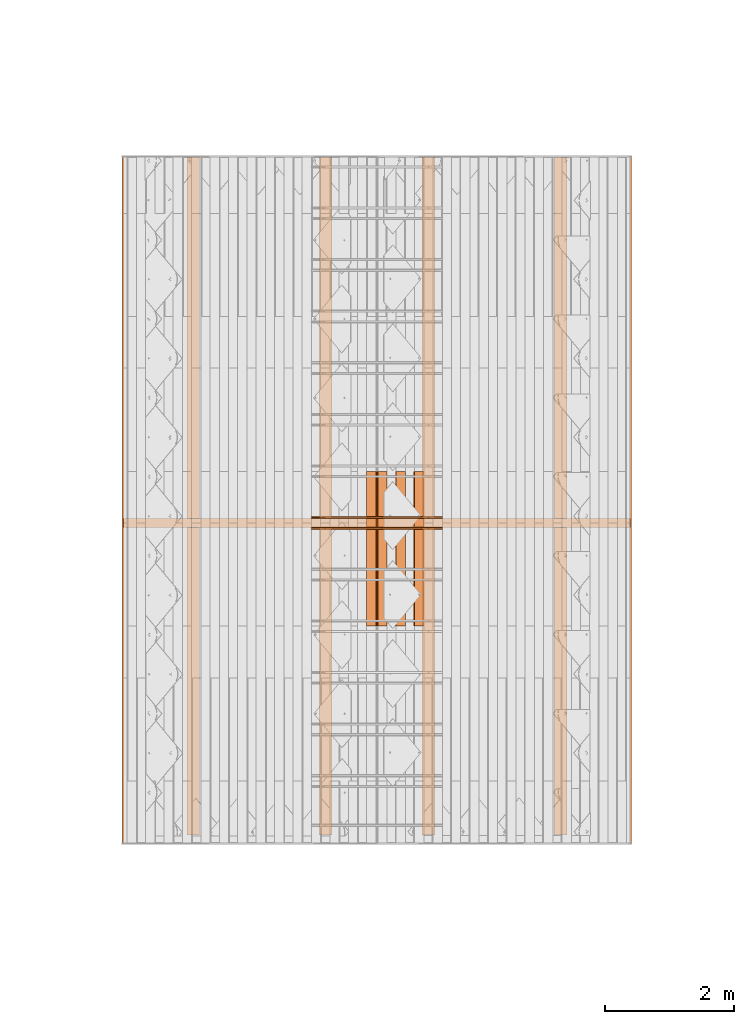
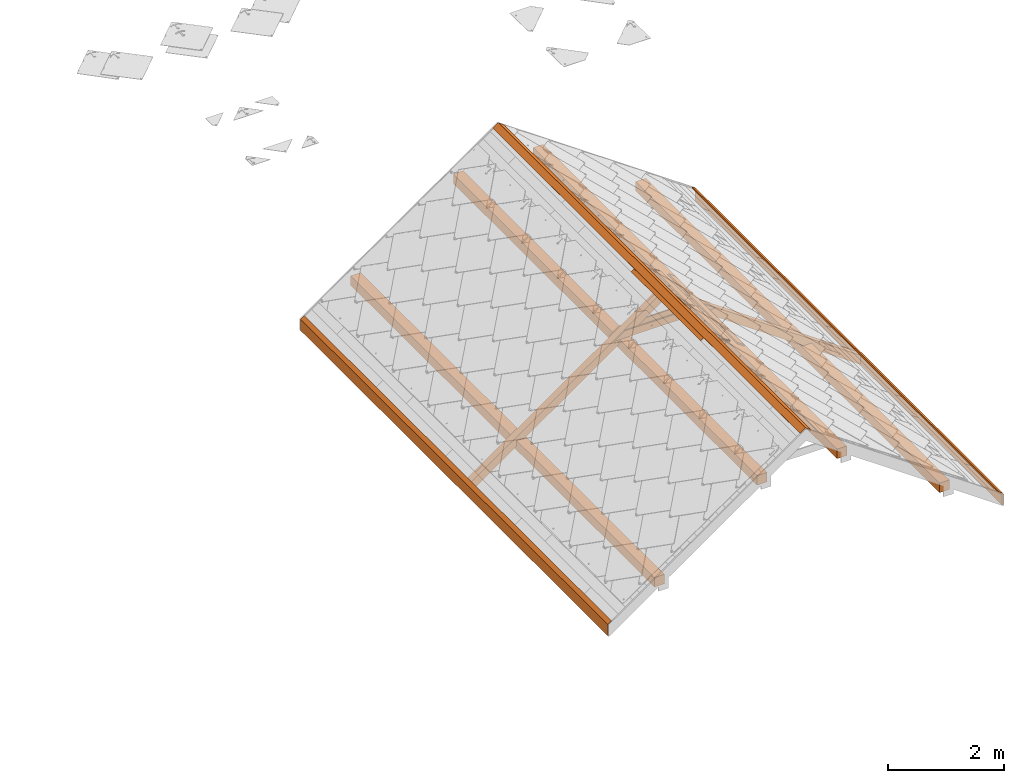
# One storey, part 41 of 151: 9 proxies, 1 element without a shape of its own.
"""IFC2X3 building model written with IfcOpenShell, lengths in millimetres."""

from ifc_helpers import new_model, entity, si_unit, converted_unit, derived_unit, direction, frame, frame_2d, origin, origin_2d_with_axis, place, context, subcontext, project, spatial, polyline, rectangle, outline, extrude, source, transform, mapped, material, type_object, type_shapes, element, aggregate, save


model = new_model("IFC2X3")

# Units and contexts
model_context = context("Model", 3, precision=0.01, world=origin(), true_north=direction((6.12303176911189e-17, 1.0)))
body_context = subcontext(model_context, "Body", "Model", "MODEL_VIEW")
ifc_project = project(units=[si_unit("LENGTHUNIT", "METRE", prefix="MILLI"), si_unit("AREAUNIT", "SQUARE_METRE"), si_unit("VOLUMEUNIT", "CUBIC_METRE"), converted_unit("PLANEANGLEUNIT", "DEGREE", entity("IfcRatioMeasure", 0.0174532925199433), si_unit("PLANEANGLEUNIT", "RADIAN"), dimensions=[0, 0, 0, 0, 0, 0, 0]), si_unit("MASSUNIT", "GRAM", prefix="KILO"), derived_unit("MASSDENSITYUNIT", [(si_unit("MASSUNIT", "GRAM", prefix="KILO"), 1), (si_unit("LENGTHUNIT", "METRE"), -3)]), si_unit("TIMEUNIT", "SECOND"), si_unit("FREQUENCYUNIT", "HERTZ"), si_unit("THERMODYNAMICTEMPERATUREUNIT", "DEGREE_CELSIUS"), derived_unit("THERMALTRANSMITTANCEUNIT", [(si_unit("MASSUNIT", "GRAM", prefix="KILO"), 1), (si_unit("THERMODYNAMICTEMPERATUREUNIT", "KELVIN"), -1), (si_unit("TIMEUNIT", "SECOND"), -3)]), derived_unit("VOLUMETRICFLOWRATEUNIT", [(si_unit("LENGTHUNIT", "METRE"), 3), (si_unit("TIMEUNIT", "SECOND"), -1)]), si_unit("ELECTRICCURRENTUNIT", "AMPERE"), si_unit("ELECTRICVOLTAGEUNIT", "VOLT"), si_unit("POWERUNIT", "WATT"), si_unit("FORCEUNIT", "NEWTON", prefix="KILO"), si_unit("ILLUMINANCEUNIT", "LUX"), si_unit("LUMINOUSFLUXUNIT", "LUMEN"), si_unit("LUMINOUSINTENSITYUNIT", "CANDELA"), derived_unit("USERDEFINED", [(si_unit("MASSUNIT", "GRAM", prefix="KILO"), -1), (si_unit("LENGTHUNIT", "METRE"), -2), (si_unit("TIMEUNIT", "SECOND"), 3), (si_unit("LUMINOUSFLUXUNIT", "LUMEN"), 1)]), derived_unit("LINEARVELOCITYUNIT", [(si_unit("LENGTHUNIT", "METRE"), 1), (si_unit("TIMEUNIT", "SECOND"), -1)]), si_unit("PRESSUREUNIT", "PASCAL"), derived_unit("USERDEFINED", [(si_unit("LENGTHUNIT", "METRE"), -2), (si_unit("MASSUNIT", "GRAM", prefix="KILO"), 1), (si_unit("TIMEUNIT", "SECOND"), -2)])], contexts=[model_context])

# Site, building, storey
site_placement = place(None, origin())
site = spatial("IfcSite", under=ifc_project, at=site_placement, Name="Default", CompositionType="ELEMENT")
building_placement = place(site_placement, origin())
building = spatial("IfcBuilding", under=site, at=building_placement, CompositionType="ELEMENT")
storey_placement = place(building_placement, origin())
storey = spatial("IfcBuildingStorey", under=building, at=storey_placement, Name="Level 1", CompositionType="ELEMENT", Elevation=0.0)

# Assembly, proxies
assembly_placement = place(storey_placement, origin())
assembly = element("IfcElementAssembly", 1, at=assembly_placement, inside=storey, Name="Structural Framing Assembly:Roof Construction Assembly", ObjectType="Structural Framing Assembly:Roof Construction Assembly", AssemblyPlace="NOTDEFINED", PredefinedType="USERDEFINED")
ifc_material_1 = material(Name="Wood - Generic - Wood For Showcase")
building_element_proxy_type_1 = type_object("IfcBuildingElementProxyType", Name="Structural Framing 1", PredefinedType="NOTDEFINED", material=ifc_material_1)
shared_shape_1 = source(origin(), body_context, "Body", "SweptSolid", [
    extrude(outline(polyline([(-929.245683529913, -1327.10037070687), (3863.25950492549, -1327.10037070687), (3975.29271103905, -1167.10037070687), (2778.93361405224, -1167.10037070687), (2713.54351952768, -1260.48710386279), (2580.17344271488, -1167.10037070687), (278.933614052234, -1167.10037070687), (213.543519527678, -1260.48710386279), (80.1734427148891, -1167.10037070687), (-817.212477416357, -1167.10037070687), (-1124.13653843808, -323.833443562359), (-1257.50661525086, -230.446710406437), (-1192.11652072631, -137.059977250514), (-1979.18689675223, 2025.39810840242), (-2112.55697356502, 2118.78484155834), (-2047.16687904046, 2212.17157471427), (-2456.34578886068, 3336.3813899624), (-2568.37899497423, 3176.3813899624), (-929.245683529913, -1327.10037070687)])), frame((1206.77890726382, 3785.55080214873, 1179.90959070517), z_axis=(0.0, 1.0, 0.0), x_axis=(0.819152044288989, 0.0, -0.573576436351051)), (0.0, 0.0, 1.0), 140.0),
])
type_shapes(building_element_proxy_type_1, [shared_shape_1])
proxy_1_placement = place(assembly_placement, frame((57.4878711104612, -5600.0, 0.0)))
proxy_1 = element("IfcBuildingElementProxy", 2, at=proxy_1_placement, type_object=building_element_proxy_type_1, material=ifc_material_1, Name="Structural Framing 8:Structural Framing 1", ObjectType="Structural Framing 8:Structural Framing 1", context=body_context, shape_type="MappedRepresentation", body=[
    mapped(shared_shape_1, transform((0.0, 0.0, 0.0), scale=1.0)),
])
building_element_proxy_type_2 = type_object("IfcBuildingElementProxyType", Name="Structural Framing 15", PredefinedType="NOTDEFINED", material=ifc_material_1)
shared_shape_2 = source(origin(), body_context, "Body", "SweptSolid", [
    extrude(rectangle(XDim=24.9999999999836, YDim=174.344679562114, at=frame_2d((2.97539770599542e-13, -4.2632564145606e-14), x_axis=(1.0, 0.0))), frame((1285.35601305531, 1525.55080214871, 2760.23940055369), z_axis=(0.0, 1.0, 0.0), x_axis=(0.573576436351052, 0.0, 0.819152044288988)), (0.0, 0.0, 1.0), 2400.0),
])
type_shapes(building_element_proxy_type_2, [shared_shape_2])
proxy_2_placement = place(assembly_placement, frame((57.4878711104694, -4870.0, 0.0)))
proxy_2 = element("IfcBuildingElementProxy", 3, at=proxy_2_placement, type_object=building_element_proxy_type_2, material=ifc_material_1, Name="Structural Framing 157:Structural Framing 15", ObjectType="Structural Framing 157:Structural Framing 15", context=body_context, shape_type="MappedRepresentation", body=[
    mapped(shared_shape_2, transform((0.0, 0.0, 0.0), scale=1.0)),
])
building_element_proxy_type_3 = type_object("IfcBuildingElementProxyType", Name="Structural Framing 15", PredefinedType="NOTDEFINED", material=ifc_material_1)
shared_shape_3 = source(origin(), body_context, "Body", "SweptSolid", [
    extrude(rectangle(XDim=24.9999999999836, YDim=174.344679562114, at=frame_2d((2.97539770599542e-13, -4.2632564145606e-14), x_axis=(1.0, 0.0))), frame((1285.35601305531, 1525.55080214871, 2760.23940055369), z_axis=(0.0, 1.0, 0.0), x_axis=(0.573576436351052, 0.0, 0.819152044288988)), (0.0, 0.0, 1.0), 2400.0),
])
type_shapes(building_element_proxy_type_3, [shared_shape_3])
proxy_3_placement = place(assembly_placement, frame((343.11747245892, -4870.0, -200.0)))
proxy_3 = element("IfcBuildingElementProxy", 4, at=proxy_3_placement, type_object=building_element_proxy_type_3, material=ifc_material_1, Name="Structural Framing 167:Structural Framing 15", ObjectType="Structural Framing 167:Structural Framing 15", context=body_context, shape_type="MappedRepresentation", body=[
    mapped(shared_shape_3, transform((0.0, 0.0, 0.0), scale=1.0)),
])
building_element_proxy_type_4 = type_object("IfcBuildingElementProxyType", Name="Structural Framing 15", PredefinedType="NOTDEFINED", material=ifc_material_1)
shared_shape_4 = source(origin(), body_context, "Body", "SweptSolid", [
    extrude(rectangle(XDim=24.9999999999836, YDim=174.344679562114, at=frame_2d((2.97539770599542e-13, -4.2632564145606e-14), x_axis=(1.0, 0.0))), frame((1285.35601305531, 1525.55080214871, 2760.23940055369), z_axis=(0.0, 1.0, 0.0), x_axis=(0.573576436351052, 0.0, 0.819152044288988)), (0.0, 0.0, 1.0), 2400.0),
])
type_shapes(building_element_proxy_type_4, [shared_shape_4])
proxy_4_placement = place(assembly_placement, frame((628.747073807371, -4870.0, -400.0)))
proxy_4 = element("IfcBuildingElementProxy", 5, at=proxy_4_placement, type_object=building_element_proxy_type_4, material=ifc_material_1, Name="Structural Framing 177:Structural Framing 15", ObjectType="Structural Framing 177:Structural Framing 15", context=body_context, shape_type="MappedRepresentation", body=[
    mapped(shared_shape_4, transform((0.0, 0.0, 0.0), scale=1.0)),
])
building_element_proxy_type_5 = type_object("IfcBuildingElementProxyType", Name="Structural Framing 15", PredefinedType="NOTDEFINED", material=ifc_material_1)
shared_shape_5 = source(origin(), body_context, "Body", "SweptSolid", [
    extrude(rectangle(XDim=24.9999999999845, YDim=174.344679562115, at=frame_2d((-1.77635683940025e-13, -4.54747350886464e-13), x_axis=(0.0, 1.0))), frame((1128.20180147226, 1525.55080214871, 2760.23940055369), z_axis=(0.0, 1.0, 0.0), x_axis=(-0.819152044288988, 0.0, -0.573576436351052)), (0.0, 0.0, 1.0), 2400.0),
])
type_shapes(building_element_proxy_type_5, [shared_shape_5])
proxy_5_placement = place(assembly_placement, frame((57.4878711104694, -4870.0, 0.0)))
proxy_5 = element("IfcBuildingElementProxy", 6, at=proxy_5_placement, type_object=building_element_proxy_type_5, material=ifc_material_1, Name="Structural Framing 17:Structural Framing 15", ObjectType="Structural Framing 17:Structural Framing 15", context=body_context, shape_type="MappedRepresentation", body=[
    mapped(shared_shape_5, transform((0.0, 0.0, 0.0), scale=1.0)),
])
building_element_proxy_type_6 = type_object("IfcBuildingElementProxyType", Name="Structural Framing 295", PredefinedType="NOTDEFINED", material=ifc_material_1)
shared_shape_6 = source(origin(), body_context, "Body", "SweptSolid", [
    extrude(rectangle(XDim=10507.4999999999, YDim=200.0, at=frame_2d((0.0, -1.35003119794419e-13), x_axis=(1.0, 0.0))), frame((-1639.01151512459, -1328.19919785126, 456.015556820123), z_axis=(0.0, 0.0, 1.0), x_axis=(0.0, -1.0, 0.0)), (0.0, 0.0, 1.0), 200.0),
    extrude(rectangle(XDim=10507.4999999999, YDim=200.0, at=frame_2d((0.0, -5.47117906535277e-13), x_axis=(1.0, 0.0))), frame((4052.56932965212, -1328.19919785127, 456.015556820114), z_axis=(0.0, 0.0, 1.0), x_axis=(0.0, -1.0, 0.0)), (0.0, 0.0, 1.0), 200.0),
    extrude(rectangle(XDim=10507.4999999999, YDim=200.0, at=origin_2d_with_axis()), frame((408.868595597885, -1328.19919785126, 1889.95664769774), z_axis=(0.0, 0.0, 1.0), x_axis=(0.0, -1.0, 0.0)), (0.0, 0.0, 1.0), 200.000000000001),
    extrude(rectangle(XDim=10507.4999999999, YDim=200.0, at=frame_2d((0.0, 1.35003119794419e-13), x_axis=(1.0, 0.0))), frame((2004.68921892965, -1328.19919785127, 1889.95664769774), z_axis=(0.0, 0.0, 1.0), x_axis=(0.0, -1.0, 0.0)), (0.0, 0.0, 1.0), 200.000000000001),
])
type_shapes(building_element_proxy_type_6, [shared_shape_6])
proxy_6_placement = place(assembly_placement, frame((57.4878711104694, 0.0, 0.0)))
proxy_6 = element("IfcBuildingElementProxy", 7, at=proxy_6_placement, type_object=building_element_proxy_type_6, material=ifc_material_1, Name="Structural Framing 295:Structural Framing 295", ObjectType="Structural Framing 295:Structural Framing 295", context=body_context, shape_type="MappedRepresentation", body=[
    mapped(shared_shape_6, transform((0.0, 0.0, 0.0), scale=1.0)),
])
building_element_proxy_type_7 = type_object("IfcBuildingElementProxyType", Name="Structural Framing 296", PredefinedType="NOTDEFINED", material=ifc_material_1)
shared_shape_7 = source(origin(), body_context, "Body", "SweptSolid", [
    extrude(outline(polyline([(-1014.04699829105, -75.0), (1014.04699829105, -75.0), (799.824797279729, 75.0), (-799.824797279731, 75.0), (-1014.04699829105, -75.0)])), frame((1206.77890726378, 3760.55080214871, 2164.95664769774), z_axis=(0.0, 1.0, 0.0), x_axis=(-1.0, 0.0, 0.0)), (0.0, 0.0, 1.0), 24.9999999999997),
])
type_shapes(building_element_proxy_type_7, [shared_shape_7])
proxy_7_placement = place(assembly_placement, frame((57.4878711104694, -5600.0, 0.0)))
proxy_7 = element("IfcBuildingElementProxy", 8, at=proxy_7_placement, type_object=building_element_proxy_type_7, material=ifc_material_1, Name="Structural Framing 309:Structural Framing 296", ObjectType="Structural Framing 309:Structural Framing 296", context=body_context, shape_type="MappedRepresentation", body=[
    mapped(shared_shape_7, transform((0.0, 0.0, 0.0), scale=1.0)),
])
building_element_proxy_type_8 = type_object("IfcBuildingElementProxyType", Name="Structural Framing 296", PredefinedType="NOTDEFINED", material=ifc_material_1)
shared_shape_8 = source(origin(), body_context, "Body", "SweptSolid", [
    extrude(outline(polyline([(-1014.04699829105, -75.0), (1014.04699829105, -75.0), (799.824797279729, 75.0), (-799.824797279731, 75.0), (-1014.04699829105, -75.0)])), frame((1206.77890726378, 2325.55080214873, 2164.95664769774), z_axis=(0.0, 1.0, 0.0), x_axis=(-1.0, 0.0, 0.0)), (0.0, 0.0, 1.0), 25.0),
])
type_shapes(building_element_proxy_type_8, [shared_shape_8])
proxy_8_placement = place(assembly_placement, frame((57.4878711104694, -4000.0, 0.0)))
proxy_8 = element("IfcBuildingElementProxy", 9, at=proxy_8_placement, type_object=building_element_proxy_type_8, material=ifc_material_1, Name="Structural Framing 310:Structural Framing 296", ObjectType="Structural Framing 310:Structural Framing 296", context=body_context, shape_type="MappedRepresentation", body=[
    mapped(shared_shape_8, transform((0.0, 0.0, 0.0), scale=1.0)),
])
ifc_material_2 = material(Name="Steel - Generic - Black Steel")
building_element_proxy_type_9 = type_object("IfcBuildingElementProxyType", Name="Structural Framing 321", PredefinedType="NOTDEFINED", material=ifc_material_2)
shared_shape_9 = source(origin(), body_context, "Body", "SweptSolid", [
    extrude(outline(polyline([(-54.8959999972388, 10.4195865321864), (170.947298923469, 10.4195865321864), (170.947298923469, 35.4195865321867), (-67.905897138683, 35.4195865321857), (-119.904373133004, -38.8419333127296), (-99.1883275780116, -52.8364128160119), (-54.8959999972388, 10.4195865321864)])), frame((-2651.10405748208, -6702.90480582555, 26.7553175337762), z_axis=(0.0, 1.0, 0.0), x_axis=(0.0, 0.0, -1.0)), (0.0, 0.0, 1.0), 10628.4556079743),
    extrude(outline(polyline([(22.9518264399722, 50.9445999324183), (100.173143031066, 50.9445999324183), (100.591772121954, 75.9410946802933), (9.93519577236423, 75.9410946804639), (-127.065369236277, -119.715989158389), (-106.586568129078, -134.055400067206), (22.9518264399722, 50.9445999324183)])), frame((5179.63761423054, -6702.90480582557, 26.7553175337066), z_axis=(0.0, 1.0, 0.0), x_axis=(-0.819152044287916, 0.0, 0.573576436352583)), (0.0, 0.0, 1.0), 10628.4556079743),
    extrude(outline(polyline([(25.3285986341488, -99.0490595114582), (50.3285986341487, -99.0490595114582), (52.582318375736, 35.521363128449), (-73.1016972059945, 83.6649621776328), (-82.4340606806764, 60.4721401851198), (27.2962422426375, 18.4396535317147), (25.3285986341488, -99.0490595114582)])), frame((1264.26677837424, -6702.90480582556, 2797.57842267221), z_axis=(0.0, 1.0, 0.0), x_axis=(-0.559779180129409, 0.0, 0.828641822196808)), (0.0, 0.0, 1.0), 10628.4556079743),
])
type_shapes(building_element_proxy_type_9, [shared_shape_9])
proxy_9_placement = place(assembly_placement, origin())
proxy_9 = element("IfcBuildingElementProxy", 10, at=proxy_9_placement, type_object=building_element_proxy_type_9, material=ifc_material_2, Name="Structural Framing 321:Structural Framing 321", ObjectType="Structural Framing 321:Structural Framing 321", context=body_context, shape_type="MappedRepresentation", body=[
    mapped(shared_shape_9, transform((0.0, 0.0, 0.0), scale=1.0)),
])
aggregate(assembly, [proxy_1, proxy_2, proxy_3, proxy_4, proxy_5, proxy_6, proxy_7, proxy_8, proxy_9])

save(model, "model.ifc")
